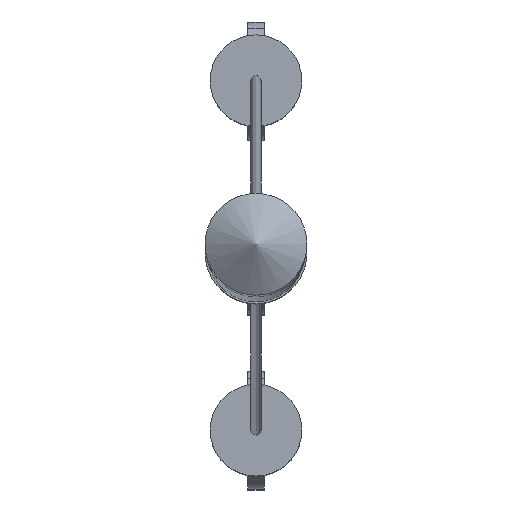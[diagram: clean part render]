
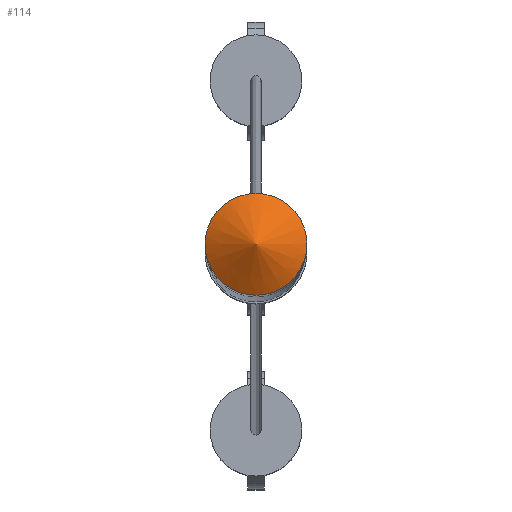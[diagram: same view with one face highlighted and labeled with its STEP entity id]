
A CAD part, top view. The second image highlights one B-rep face of the part: STEP entity #114.
In plain terms, the highlighted conical face has half-angle 60 degrees and reference radius 2.5 mm.
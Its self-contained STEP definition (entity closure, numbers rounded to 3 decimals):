
#35 = EDGE_LOOP ( 'NONE', ( #150 ) ) ;
#114 = ADVANCED_FACE ( 'NONE', ( #838 ), #487, .T. ) ;
#150 = ORIENTED_EDGE ( 'NONE', *, *, #470, .T. ) ;
#256 = DIRECTION ( 'NONE',  ( 1., 0., 0. ) ) ;
#360 = VERTEX_POINT ( 'NONE', #392 ) ;
#392 = CARTESIAN_POINT ( 'NONE',  ( 2.5, 6.556, 67.072 ) ) ;
#470 = EDGE_CURVE ( 'NONE', #360, #360, #521, .T. ) ;
#487 = CONICAL_SURFACE ( 'NONE', #820, 2.5, 1.047 ) ;
#521 = CIRCLE ( 'NONE', #852, 2.5 ) ;
#638 = DIRECTION ( 'NONE',  ( -1., 0., 0. ) ) ;
#820 = AXIS2_PLACEMENT_3D ( 'NONE', #1600, #1794, #638 ) ;
#838 = FACE_OUTER_BOUND ( 'NONE', #35, .T. ) ;
#852 = AXIS2_PLACEMENT_3D ( 'NONE', #1793, #1394, #256 ) ;
#1394 = DIRECTION ( 'NONE',  ( 0., 0., 1. ) ) ;
#1600 = CARTESIAN_POINT ( 'NONE',  ( 0., 6.556, 67.072 ) ) ;
#1793 = CARTESIAN_POINT ( 'NONE',  ( 0., 6.556, 67.072 ) ) ;
#1794 = DIRECTION ( 'NONE',  ( 0., 0., -1. ) ) ;
